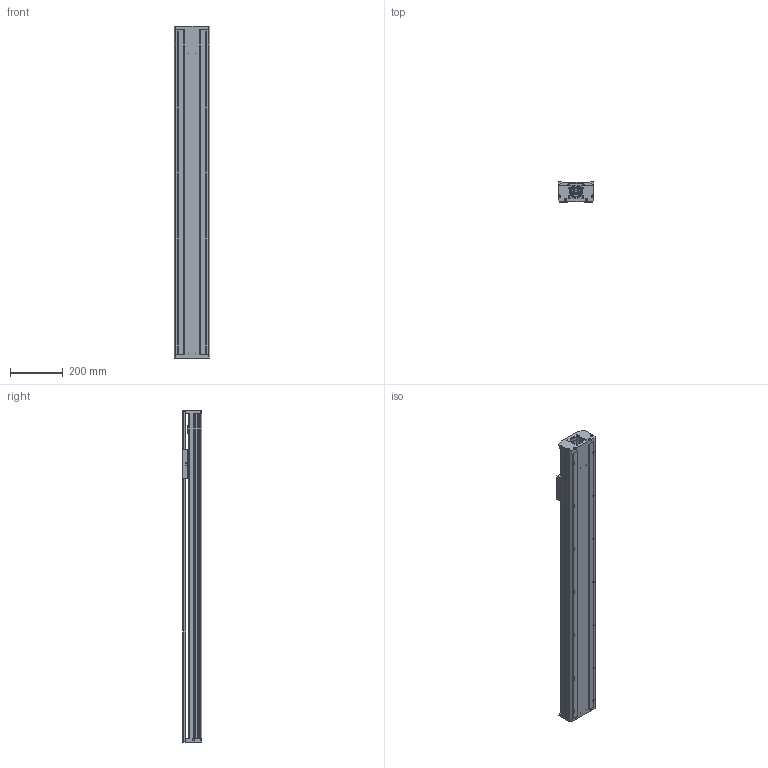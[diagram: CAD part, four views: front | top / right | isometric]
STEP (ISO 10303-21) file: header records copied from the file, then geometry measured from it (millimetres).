
FILE_DESCRIPTION(/* description */ (''),/* implementation_level */ '2;1');
FILE_NAME(/* name */ 'TKA136-F0-1000_asm1.stp',/* time_stamp */ '2016-05-07T08:41:57+08:00',/* author */ (''),/* organization */ (''),/* preprocessor_version */ 'ST-DEVELOPER v15',/* originating_system */ 'SIEMENS PLM Software NX 8.5',/* authorisation */ '');
FILE_SCHEMA (('AUTOMOTIVE_DESIGN { 1 0 10303 214 3 1 1 1 }'));
Length unit declared in the file: millimetre
Products named in the file (3): 1000-02; 1000-01; TKA136-F0-1000_asm1
Assembly tree (2 placements, depth 2):
  TKA136-F0-1000_asm1
    1000-01
    1000-02
Bounding box: 136 x 75 x 1257 mm (x, y, z)
Volume: 3839608.2 mm3; surface area: 1432369.9 mm2
Topology: 2 solids, 12 shells, 845 faces, 2419 edges, 1580 vertices
Faces by surface type: cylinder 404, plane 387, cone 54
Full cylindrical faces by diameter (mm): 2.5 x4, 3 x2, 3.3 x12, 4 x4, 4.2 x10, 4.5 x20, 5 x18, 5.5 x26, 6.6 x18, 8 x20, 10 x9, 10.5 x14, 11 x4, 11.6 x1, 12 x9, 15 x3, 16 x5, 17 x1, 24 x5, 26 x1, 28 x1, 46 x1, 50 x1
Entity records: 28764 total; most frequent: CARTESIAN_POINT 7980, DIRECTION 4277, ORIENTED_EDGE 4060, EDGE_CURVE 2030, AXIS2_PLACEMENT_3D 1631, VERTEX_POINT 1460, EDGE_LOOP 1240, LINE 1015
